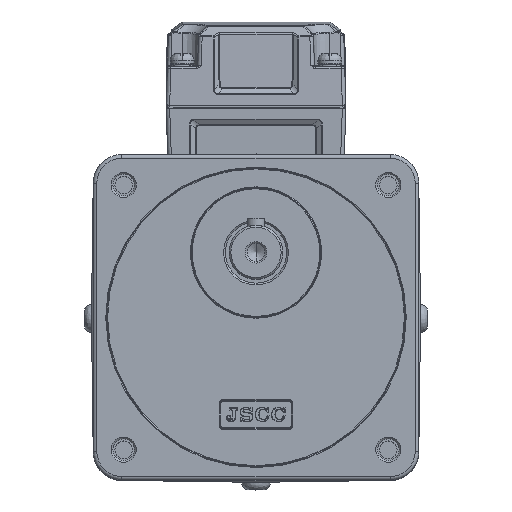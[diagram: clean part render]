
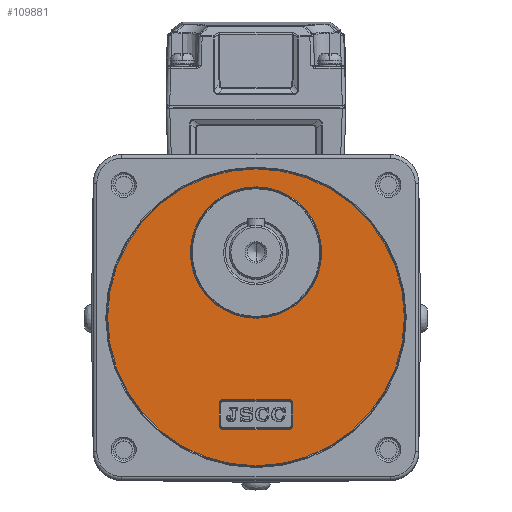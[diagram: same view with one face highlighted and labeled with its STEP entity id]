
A CAD part, top view. The second image highlights one B-rep face of the part: STEP entity #109881.
In plain terms, the highlighted planar face has unit normal (0, 0, 1) as drawn and (1, 0, 0) by its records, which use the part's own axes.
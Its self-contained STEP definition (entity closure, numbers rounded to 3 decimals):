
#109766=CARTESIAN_POINT('',(65.2,0.,0.));
#109767=DIRECTION('',(0.,0.,-1.));
#109768=DIRECTION('',(1.,-0.,0.));
#109769=AXIS2_PLACEMENT_3D('',#109766,#109768,#109767);
#109770=PLANE('',#109769);
#109771=CARTESIAN_POINT('',(65.2,0.,-41.25));
#109772=VERTEX_POINT('',#109771);
#109773=CARTESIAN_POINT('',(65.2,0.,41.25));
#109774=VERTEX_POINT('',#109773);
#109775=CARTESIAN_POINT('',(65.2,0.,0.));
#109776=DIRECTION('',(0.,0.,-1.));
#109777=DIRECTION('',(1.,0.,0.));
#109778=AXIS2_PLACEMENT_3D('',#109775,#109777,#109776);
#109779=CIRCLE('',#109778,41.25);
#109780=EDGE_CURVE('',#109772,#109774,#109779,.T.);
#109781=ORIENTED_EDGE('E1',*,*,#109780,.T.);
#109782=CARTESIAN_POINT('',(65.2,0.,0.));
#109783=DIRECTION('',(0.,0.,1.));
#109784=DIRECTION('',(1.,0.,0.));
#109785=AXIS2_PLACEMENT_3D('',#109782,#109784,#109783);
#109786=CIRCLE('',#109785,41.25);
#109787=EDGE_CURVE('',#109774,#109772,#109786,.T.);
#109788=ORIENTED_EDGE('E2',*,*,#109787,.T.);
#109789=EDGE_LOOP('',(#109781,#109788));
#109790=FACE_OUTER_BOUND('',#109789,.T.);
#109791=CARTESIAN_POINT('',(65.2,-18.,18.25));
#109792=VERTEX_POINT('',#109791);
#109793=CARTESIAN_POINT('',(65.2,-18.,-18.25));
#109794=VERTEX_POINT('',#109793);
#109795=CARTESIAN_POINT('',(65.2,-18.,0.));
#109796=DIRECTION('',(0.,0.,1.));
#109797=DIRECTION('',(-1.,0.,0.));
#109798=AXIS2_PLACEMENT_3D('',#109795,#109797,#109796);
#109799=CIRCLE('',#109798,18.25);
#109800=EDGE_CURVE('',#109792,#109794,#109799,.T.);
#109801=ORIENTED_EDGE('E3',*,*,#109800,.T.);
#109802=CARTESIAN_POINT('',(65.2,-18.,0.));
#109803=DIRECTION('',(0.,0.,-1.));
#109804=DIRECTION('',(-1.,0.,0.));
#109805=AXIS2_PLACEMENT_3D('',#109802,#109804,#109803);
#109806=CIRCLE('',#109805,18.25);
#109807=EDGE_CURVE('',#109794,#109792,#109806,.T.);
#109808=ORIENTED_EDGE('E4',*,*,#109807,.T.);
#109809=EDGE_LOOP('',(#109801,#109808));
#109810=FACE_BOUND('',#109809,.T.);
#109811=CARTESIAN_POINT('',(65.2,24.,10.25));
#109812=VERTEX_POINT('',#109811);
#109813=CARTESIAN_POINT('',(65.2,30.,10.25));
#109814=VERTEX_POINT('',#109813);
#109815=CARTESIAN_POINT('',(65.2,24.,10.25));
#109816=DIRECTION('',(0.,1.,0.));
#109817=VECTOR('',#109816,6.);
#109818=LINE('',#109815,#109817);
#109819=EDGE_CURVE('',#109812,#109814,#109818,.T.);
#109820=ORIENTED_EDGE('E5',*,*,#109819,.T.);
#109821=CARTESIAN_POINT('',(65.2,31.25,9.));
#109822=VERTEX_POINT('',#109821);
#109823=CARTESIAN_POINT('',(65.2,30.,9.));
#109824=DIRECTION('',(0.,0.,1.));
#109825=DIRECTION('',(-1.,0.,0.));
#109826=AXIS2_PLACEMENT_3D('',#109823,#109825,#109824);
#109827=CIRCLE('',#109826,1.25);
#109828=EDGE_CURVE('',#109814,#109822,#109827,.T.);
#109829=ORIENTED_EDGE('E6',*,*,#109828,.T.);
#109830=CARTESIAN_POINT('',(65.2,31.25,-9.));
#109831=VERTEX_POINT('',#109830);
#109832=CARTESIAN_POINT('',(65.2,31.25,9.));
#109833=DIRECTION('',(0.,0.,-1.));
#109834=VECTOR('',#109833,18.);
#109835=LINE('',#109832,#109834);
#109836=EDGE_CURVE('',#109822,#109831,#109835,.T.);
#109837=ORIENTED_EDGE('E7',*,*,#109836,.T.);
#109838=CARTESIAN_POINT('',(65.2,30.,-10.25));
#109839=VERTEX_POINT('',#109838);
#109840=CARTESIAN_POINT('',(65.2,30.,-9.));
#109841=DIRECTION('',(0.,1.,0.));
#109842=DIRECTION('',(-1.,0.,0.));
#109843=AXIS2_PLACEMENT_3D('',#109840,#109842,#109841);
#109844=CIRCLE('',#109843,1.25);
#109845=EDGE_CURVE('',#109831,#109839,#109844,.T.);
#109846=ORIENTED_EDGE('E8',*,*,#109845,.T.);
#109847=CARTESIAN_POINT('',(65.2,24.,-10.25));
#109848=VERTEX_POINT('',#109847);
#109849=CARTESIAN_POINT('',(65.2,30.,-10.25));
#109850=DIRECTION('',(0.,-1.,0.));
#109851=VECTOR('',#109850,6.);
#109852=LINE('',#109849,#109851);
#109853=EDGE_CURVE('',#109839,#109848,#109852,.T.);
#109854=ORIENTED_EDGE('E9',*,*,#109853,.T.);
#109855=CARTESIAN_POINT('',(65.2,22.75,-9.));
#109856=VERTEX_POINT('',#109855);
#109857=CARTESIAN_POINT('',(65.2,24.,-9.));
#109858=DIRECTION('',(0.,0.,-1.));
#109859=DIRECTION('',(-1.,0.,0.));
#109860=AXIS2_PLACEMENT_3D('',#109857,#109859,#109858);
#109861=CIRCLE('',#109860,1.25);
#109862=EDGE_CURVE('',#109848,#109856,#109861,.T.);
#109863=ORIENTED_EDGE('E10',*,*,#109862,.T.);
#109864=CARTESIAN_POINT('',(65.2,22.75,9.));
#109865=VERTEX_POINT('',#109864);
#109866=CARTESIAN_POINT('',(65.2,22.75,-9.));
#109867=DIRECTION('',(0.,0.,1.));
#109868=VECTOR('',#109867,18.);
#109869=LINE('',#109866,#109868);
#109870=EDGE_CURVE('',#109856,#109865,#109869,.T.);
#109871=ORIENTED_EDGE('E11',*,*,#109870,.T.);
#109872=CARTESIAN_POINT('',(65.2,24.,9.));
#109873=DIRECTION('',(0.,-1.,0.));
#109874=DIRECTION('',(-1.,0.,0.));
#109875=AXIS2_PLACEMENT_3D('',#109872,#109874,#109873);
#109876=CIRCLE('',#109875,1.25);
#109877=EDGE_CURVE('',#109865,#109812,#109876,.T.);
#109878=ORIENTED_EDGE('E12',*,*,#109877,.T.);
#109879=EDGE_LOOP('',(#109820,#109829,#109837,#109846,#109854,#109863,#109871,#109878));
#109880=FACE_BOUND('',#109879,.T.);
#109881=ADVANCED_FACE('F1',(#109790,#109810,#109880),#109770,.T.);
